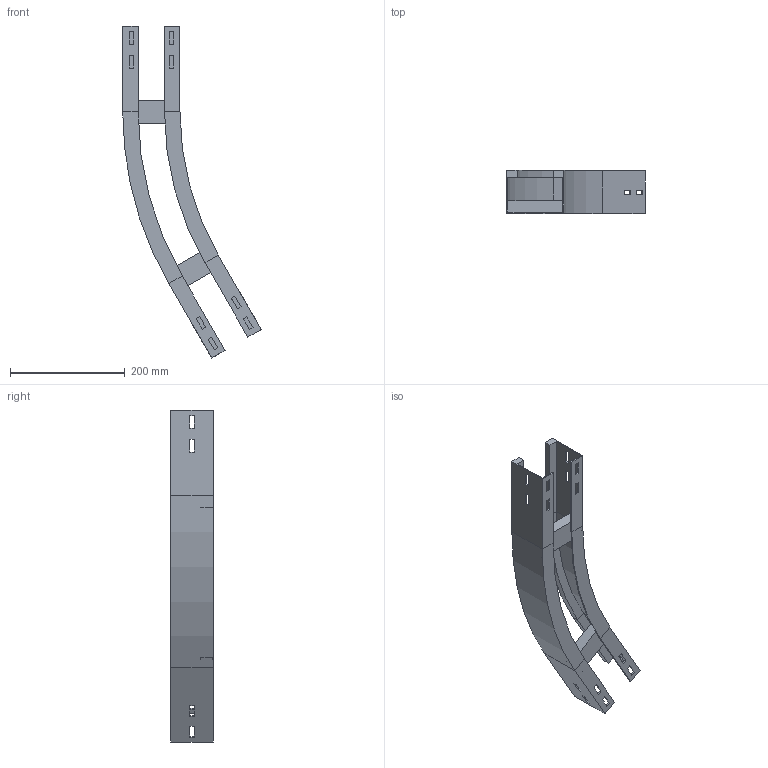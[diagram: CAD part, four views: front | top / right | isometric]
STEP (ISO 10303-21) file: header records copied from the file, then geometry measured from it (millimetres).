
FILE_DESCRIPTION (( 'STEP AP214' ), '1' );
FILE_NAME ('12B5C100.step', '2025-02-21T15:09:54', ( '' ), ( '' ), 'SwSTEP 2.0', 'SolidWorks 2023', '' );
FILE_SCHEMA (( 'AUTOMOTIVE_DESIGN' ));
Length unit declared in the file: millimetre
Products named in the file (4): TRAVERSINO_100; 12B5C100; A2_LONGH.INTERNO 30°_H75_R500; A2_LONGH.ESTERNO 30°_H75_R500+100
Assembly tree (4 placements, depth 2):
  12B5C100
    A2_LONGH.INTERNO 30°_H75_R500
    A2_LONGH.ESTERNO 30°_H75_R500+100
    TRAVERSINO_100  x2
Bounding box: 241.99 x 75 x 579.9 mm (x, y, z)
Volume: 611567.8 mm3; surface area: 302494.2 mm2
Topology: 4 solids, 4 shells, 128 faces, 328 edges, 208 vertices
Faces by surface type: plane 120, cylinder 8
Entity records: 3813 total; most frequent: CARTESIAN_POINT 645, ORIENTED_EDGE 632, DIRECTION 590, EDGE_CURVE 316, LINE 300, VECTOR 300, VERTEX_POINT 200, EDGE_LOOP 154
